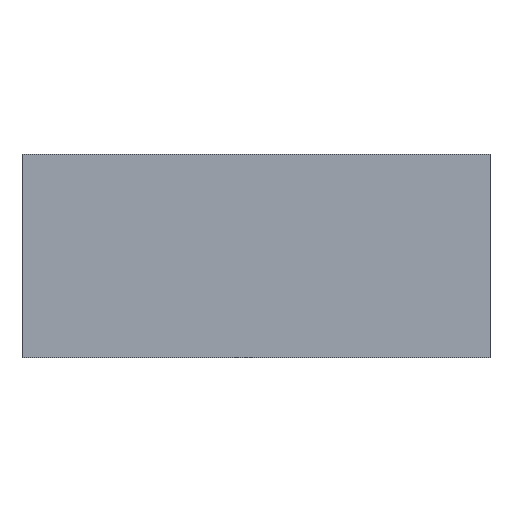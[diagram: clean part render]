
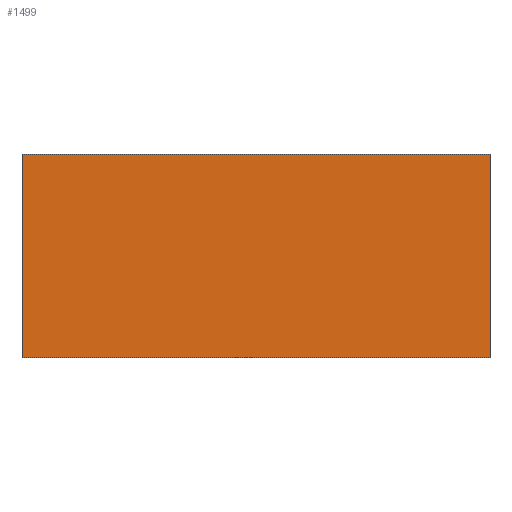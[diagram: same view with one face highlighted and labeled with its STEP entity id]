
A CAD part, front view. The second image highlights one B-rep face of the part: STEP entity #1499.
In plain terms, the highlighted planar face has unit normal (0, -1, 0).
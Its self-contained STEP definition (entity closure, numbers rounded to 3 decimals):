
#185=FACE_OUTER_BOUND('',#272,.T.);
#272=EDGE_LOOP('',(#1364,#1365,#1366,#1367));
#420=LINE('',#2710,#577);
#424=LINE('',#2717,#581);
#427=LINE('',#2723,#584);
#429=LINE('',#2726,#586);
#577=VECTOR('',#1797,10.);
#581=VECTOR('',#1803,10.);
#584=VECTOR('',#1808,10.);
#586=VECTOR('',#1812,10.);
#723=VERTEX_POINT('',#2707);
#724=VERTEX_POINT('',#2709);
#726=VERTEX_POINT('',#2715);
#728=VERTEX_POINT('',#2721);
#932=EDGE_CURVE('',#724,#723,#420,.T.);
#936=EDGE_CURVE('',#723,#726,#424,.T.);
#939=EDGE_CURVE('',#726,#728,#427,.T.);
#941=EDGE_CURVE('',#728,#724,#429,.T.);
#1364=ORIENTED_EDGE('',*,*,#941,.T.);
#1365=ORIENTED_EDGE('',*,*,#932,.T.);
#1366=ORIENTED_EDGE('',*,*,#936,.T.);
#1367=ORIENTED_EDGE('',*,*,#939,.T.);
#1419=PLANE('',#1553);
#1499=ADVANCED_FACE('',(#185),#1419,.F.);
#1553=AXIS2_PLACEMENT_3D('',#2728,#1815,#1816);
#1797=DIRECTION('',(0.,0.,-1.));
#1803=DIRECTION('',(1.,0.,0.));
#1808=DIRECTION('',(0.,0.,1.));
#1812=DIRECTION('',(-1.,0.,0.));
#1815=DIRECTION('center_axis',(0.,1.,0.));
#1816=DIRECTION('ref_axis',(1.,0.,0.));
#2707=CARTESIAN_POINT('',(0.,0.,0.));
#2709=CARTESIAN_POINT('',(0.,0.,10.));
#2710=CARTESIAN_POINT('',(0.,0.,10.));
#2715=CARTESIAN_POINT('',(23.,0.,0.));
#2717=CARTESIAN_POINT('',(0.,0.,0.));
#2721=CARTESIAN_POINT('',(23.,0.,10.));
#2723=CARTESIAN_POINT('',(23.,0.,0.));
#2726=CARTESIAN_POINT('',(23.,0.,10.));
#2728=CARTESIAN_POINT('Origin',(11.5,0.,5.));
